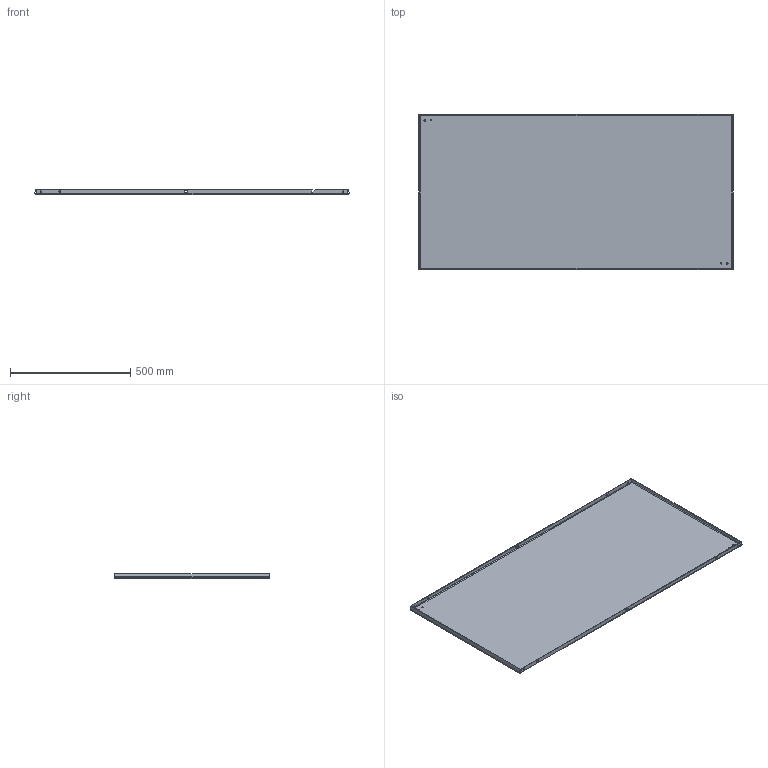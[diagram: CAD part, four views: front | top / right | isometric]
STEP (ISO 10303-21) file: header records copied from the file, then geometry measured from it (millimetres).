
FILE_DESCRIPTION (( 'STEP AP203' ), '1' );
FILE_NAME ('ppfsm148.STEP', '2012-12-18T13:32:12', ( 'User' ), ( 'Pentair Inc' ), 'SwSTEP 2.0', 'SolidWorks 2010', '' );
FILE_SCHEMA (( 'CONFIG_CONTROL_DESIGN' ));
Length unit declared in the file: inch
Products named in the file (2): ppfsm148; 87547145_87547145
Assembly tree (1 placements, depth 2):
  ppfsm148
    87547145_87547145
Bounding box: 1307.98 x 646.99 x 20.9 mm (x, y, z)
Volume: 2242317.6 mm3; surface area: 1830923.5 mm2
Topology: 1 solids, 1 shells, 121 faces, 307 edges, 194 vertices
Faces by surface type: plane 90, cylinder 31
Entity records: 3831 total; most frequent: CARTESIAN_POINT 626, DIRECTION 623, ORIENTED_EDGE 614, EDGE_CURVE 307, LINE 241, VECTOR 241, VERTEX_POINT 194, AXIS2_PLACEMENT_3D 191
